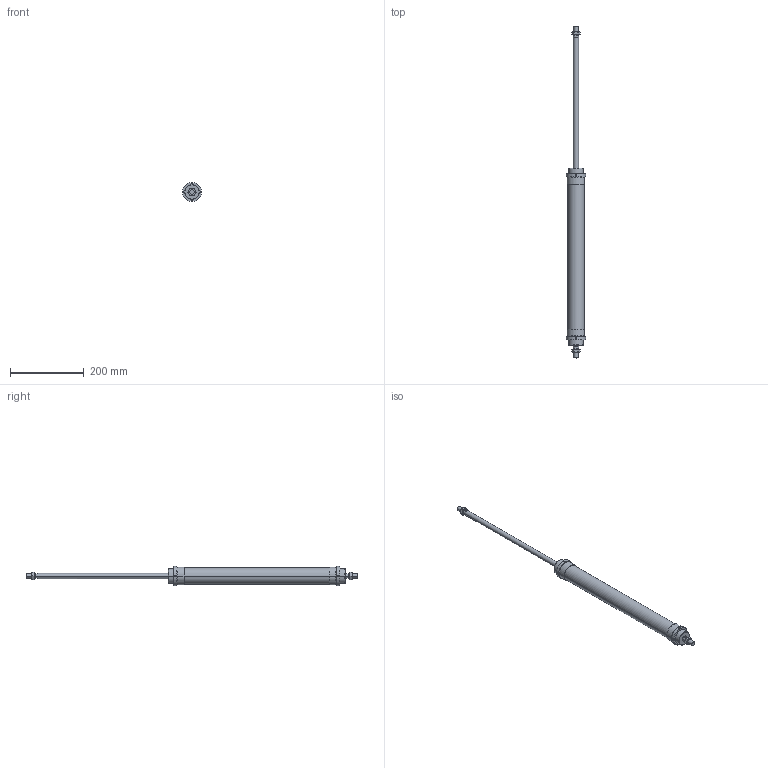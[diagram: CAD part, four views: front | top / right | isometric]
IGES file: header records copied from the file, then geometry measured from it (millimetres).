
Global section: file name: No Iges File Name specified; native system: AutoDesk Inventor R6.0; preprocessor: AutoDesk Inventor Iges Exporter R6.0; author: No Author specified; organization: No Organization specified; date: 20030403.072906; units: millimetre
Bounding box: 51.76 x 899 x 51.76 mm (x, y, z)
Volume: 803619.1 mm3; surface area: 142079.4 mm2
Topology: 6 solids, 6 shells, 182 faces, 424 edges, 264 vertices
Faces by surface type: plane 66, cone 52, bspline 30, cylinder 28, revolution 6
